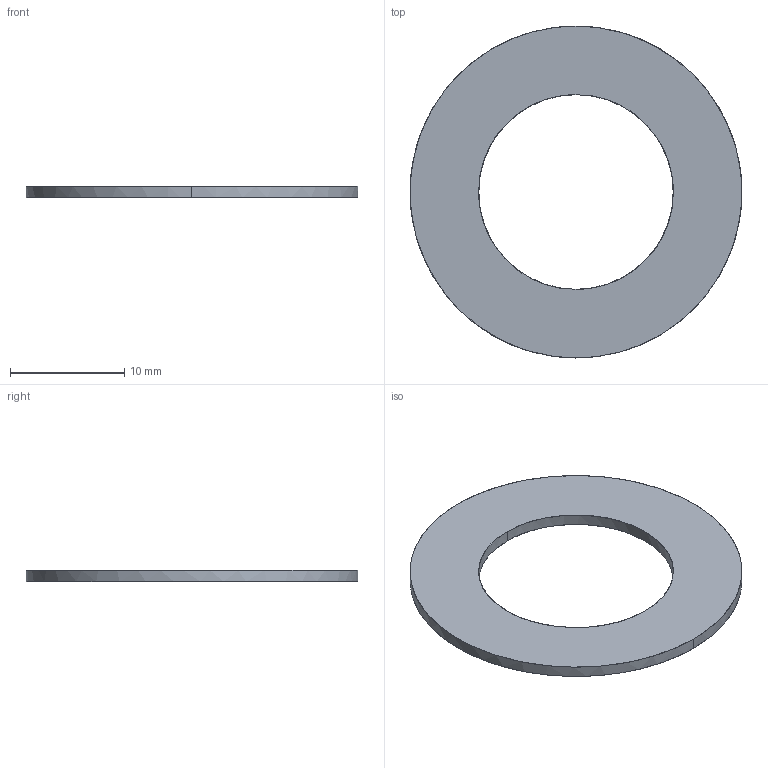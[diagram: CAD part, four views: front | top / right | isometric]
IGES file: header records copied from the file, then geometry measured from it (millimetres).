
Global section: file name: E:\UnigraphicsGraphicData\MISUMI_PRESS-PARTS\IGES\3d_sswa29-1.0_00816_r00.igs; native system: NX V5.0; preprocessor: UGS NX IGES V5.0; author: MISUMI; date: 20110105.163159; units: millimetre
Bounding box: 29 x 29 x 1 mm (x, y, z)
Surface area: 1010.4 mm2 (no closed solid volume)
Topology: 0 solids, 0 shells, 6 faces, 64 edges, 64 vertices
Faces by surface type: bspline 6
